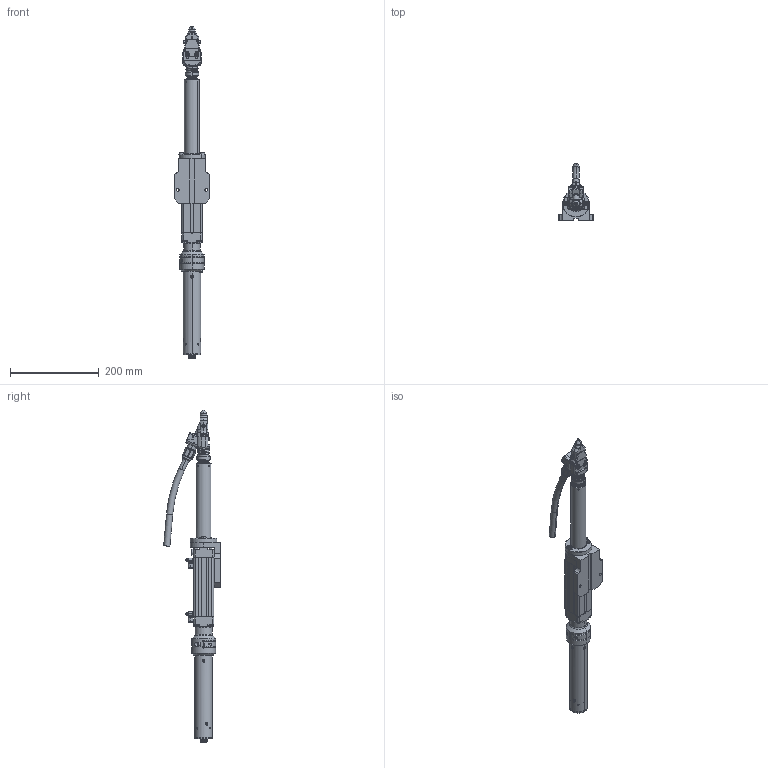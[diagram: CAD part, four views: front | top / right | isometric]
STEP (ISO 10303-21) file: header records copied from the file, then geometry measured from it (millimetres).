
FILE_DESCRIPTION (( 'STEP AP214' ), '1' );
FILE_NAME ('AA.STEP', '2026-02-02T14:03:35', ( '' ), ( '' ), 'SwSTEP 2.0', 'SolidWorks 2022', '' );
FILE_SCHEMA (( 'AUTOMOTIVE_DESIGN' ));
Length unit declared in the file: millimetre
Products named in the file (1): AA
Bounding box: 80 x 127.37 x 746.4 mm (x, y, z)
Surface area: 189000.1 mm2 (no closed solid volume)
Topology: 0 solids, 162 shells, 1152 faces, 4214 edges, 3121 vertices
Faces by surface type: plane 489, cylinder 411, cone 179, bspline 47, torus 18, sphere 8
Entity records: 69322 total; most frequent: CARTESIAN_POINT 21905, DIRECTION 7219, ORIENTED_EDGE 6318, EDGE_CURVE 4175, VERTEX_POINT 3114, AXIS2_PLACEMENT_3D 2596, VECTOR 2027, LINE 2027
